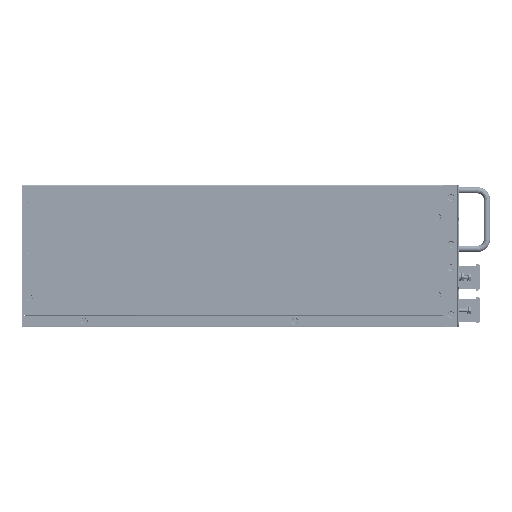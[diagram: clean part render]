
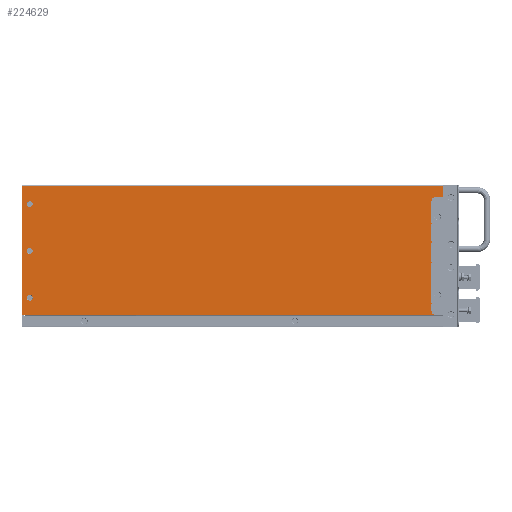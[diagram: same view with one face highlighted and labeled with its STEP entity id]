
A CAD part, left-side view. The second image highlights one B-rep face of the part: STEP entity #224629.
In plain terms, the highlighted planar face has unit normal (-1, 0, 0).
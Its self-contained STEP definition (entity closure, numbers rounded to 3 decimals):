
#2104 = VECTOR ( 'NONE', #241188, 1000. ) ;
#2286 = ORIENTED_EDGE ( 'NONE', *, *, #22132, .T. ) ;
#8684 = EDGE_CURVE ( 'NONE', #305068, #516961, #149324, .T. ) ;
#10422 = VERTEX_POINT ( 'NONE', #472895 ) ;
#22132 = EDGE_CURVE ( 'NONE', #84493, #368634, #104569, .T. ) ;
#28087 = DIRECTION ( 'NONE',  ( 1., 0., 0. ) ) ;
#30425 = AXIS2_PLACEMENT_3D ( 'NONE', #551326, #557184, #145507 ) ;
#47480 = DIRECTION ( 'NONE',  ( 0., -1., 0. ) ) ;
#47673 = FACE_BOUND ( 'NONE', #349918, .T. ) ;
#48568 = AXIS2_PLACEMENT_3D ( 'NONE', #378616, #286783, #461590 ) ;
#50557 = EDGE_CURVE ( 'NONE', #306717, #207383, #547867, .T. ) ;
#62127 = CARTESIAN_POINT ( 'NONE',  ( -220., -263., -141.5 ) ) ;
#63397 = LINE ( 'NONE', #558090, #2104 ) ;
#63403 = DIRECTION ( 'NONE',  ( 0., 0., -1. ) ) ;
#69692 = VERTEX_POINT ( 'NONE', #124878 ) ;
#74426 = DIRECTION ( 'NONE',  ( 0., 0., 1. ) ) ;
#74644 = CARTESIAN_POINT ( 'NONE',  ( -220., -263., -41.5 ) ) ;
#76308 = EDGE_LOOP ( 'NONE', ( #106493, #2286 ) ) ;
#76343 = VERTEX_POINT ( 'NONE', #373466 ) ;
#83155 = EDGE_CURVE ( 'NONE', #69692, #129796, #547067, .T. ) ;
#84493 = VERTEX_POINT ( 'NONE', #353924 ) ;
#87887 = ORIENTED_EDGE ( 'NONE', *, *, #50557, .T. ) ;
#93517 = VECTOR ( 'NONE', #310469, 1000. ) ;
#99511 = EDGE_LOOP ( 'NONE', ( #581061, #273599 ) ) ;
#103751 = FACE_BOUND ( 'NONE', #570260, .T. ) ;
#104569 = CIRCLE ( 'NONE', #511416, 2.7 ) ;
#106493 = ORIENTED_EDGE ( 'NONE', *, *, #307907, .T. ) ;
#109508 = EDGE_CURVE ( 'NONE', #286849, #305068, #317073, .T. ) ;
#115000 = CARTESIAN_POINT ( 'NONE',  ( -220., 260., -21.25 ) ) ;
#120235 = EDGE_CURVE ( 'NONE', #10422, #370964, #323507, .T. ) ;
#124878 = CARTESIAN_POINT ( 'NONE',  ( -220., 260., -81.25 ) ) ;
#129796 = VERTEX_POINT ( 'NONE', #524708 ) ;
#130580 = AXIS2_PLACEMENT_3D ( 'NONE', #74644, #249572, #205120 ) ;
#133563 = CIRCLE ( 'NONE', #48568, 2.7 ) ;
#136374 = ORIENTED_EDGE ( 'NONE', *, *, #8684, .F. ) ;
#136568 = PLANE ( 'NONE',  #415593 ) ;
#140153 = CARTESIAN_POINT ( 'NONE',  ( -220., 270., -167.032 ) ) ;
#145507 = DIRECTION ( 'NONE',  ( 0., 0., 1. ) ) ;
#149054 = ORIENTED_EDGE ( 'NONE', *, *, #499480, .T. ) ;
#149324 = LINE ( 'NONE', #507808, #347849 ) ;
#158557 = DIRECTION ( 'NONE',  ( 1., 0., 0. ) ) ;
#168666 = VERTEX_POINT ( 'NONE', #140153 ) ;
#172805 = DIRECTION ( 'NONE',  ( 1., 0., 0. ) ) ;
#173813 = CIRCLE ( 'NONE', #514315, 3.75 ) ;
#187951 = CARTESIAN_POINT ( 'NONE',  ( -220., 260., -28.75 ) ) ;
#201699 = EDGE_LOOP ( 'NONE', ( #87887, #545384 ) ) ;
#205120 = DIRECTION ( 'NONE',  ( 0., 0., -1. ) ) ;
#207383 = VERTEX_POINT ( 'NONE', #187951 ) ;
#207506 = EDGE_CURVE ( 'NONE', #168666, #516961, #63397, .T. ) ;
#208799 = CARTESIAN_POINT ( 'NONE',  ( -220., 260., -85. ) ) ;
#214761 = CARTESIAN_POINT ( 'NONE',  ( -220., -263., -44.2 ) ) ;
#217316 = CARTESIAN_POINT ( 'NONE',  ( -220., 260., -145. ) ) ;
#224629 = ADVANCED_FACE ( 'NONE', ( #281574, #406166, #497948, #47673, #103751, #361728 ), #136568, .T. ) ;
#229748 = CARTESIAN_POINT ( 'NONE',  ( -220., 270., -1.7 ) ) ;
#237870 = AXIS2_PLACEMENT_3D ( 'NONE', #217316, #172805, #353560 ) ;
#238296 = CIRCLE ( 'NONE', #237870, 3.75 ) ;
#241188 = DIRECTION ( 'NONE',  ( 0., -1., 0. ) ) ;
#241377 = VERTEX_POINT ( 'NONE', #214761 ) ;
#246929 = CARTESIAN_POINT ( 'NONE',  ( -220., -270., -167.032 ) ) ;
#248275 = AXIS2_PLACEMENT_3D ( 'NONE', #310361, #351914, #263026 ) ;
#249572 = DIRECTION ( 'NONE',  ( 1., 0., 0. ) ) ;
#253259 = DIRECTION ( 'NONE',  ( 0., 0., 1. ) ) ;
#263026 = DIRECTION ( 'NONE',  ( 0., 0., -1. ) ) ;
#273599 = ORIENTED_EDGE ( 'NONE', *, *, #281280, .T. ) ;
#281280 = EDGE_CURVE ( 'NONE', #129796, #69692, #316715, .T. ) ;
#281574 = FACE_OUTER_BOUND ( 'NONE', #306927, .T. ) ;
#286783 = DIRECTION ( 'NONE',  ( 1., 0., 0. ) ) ;
#286849 = VERTEX_POINT ( 'NONE', #229748 ) ;
#290868 = DIRECTION ( 'NONE',  ( 1., 0., 0. ) ) ;
#295220 = CIRCLE ( 'NONE', #248275, 2.7 ) ;
#305068 = VERTEX_POINT ( 'NONE', #565643 ) ;
#306717 = VERTEX_POINT ( 'NONE', #115000 ) ;
#306927 = EDGE_LOOP ( 'NONE', ( #408690, #581224, #408036, #136374 ) ) ;
#307907 = EDGE_CURVE ( 'NONE', #368634, #84493, #295220, .T. ) ;
#309404 = DIRECTION ( 'NONE',  ( 0., 0., 1. ) ) ;
#310361 = CARTESIAN_POINT ( 'NONE',  ( -220., -263., -141.5 ) ) ;
#310469 = DIRECTION ( 'NONE',  ( 0., 0., 1. ) ) ;
#316715 = CIRCLE ( 'NONE', #411030, 3.75 ) ;
#317073 = LINE ( 'NONE', #497756, #345705 ) ;
#323507 = CIRCLE ( 'NONE', #30425, 3.75 ) ;
#326024 = DIRECTION ( 'NONE',  ( 0., 0., 1. ) ) ;
#345705 = VECTOR ( 'NONE', #47480, 1000. ) ;
#347849 = VECTOR ( 'NONE', #63403, 1000. ) ;
#347987 = CIRCLE ( 'NONE', #130580, 2.7 ) ;
#349918 = EDGE_LOOP ( 'NONE', ( #424757, #149054 ) ) ;
#351914 = DIRECTION ( 'NONE',  ( 1., 0., 0. ) ) ;
#353560 = DIRECTION ( 'NONE',  ( 0., 0., 1. ) ) ;
#353924 = CARTESIAN_POINT ( 'NONE',  ( -220., -263., -138.8 ) ) ;
#356877 = CARTESIAN_POINT ( 'NONE',  ( -220., 260., -148.75 ) ) ;
#361728 = FACE_BOUND ( 'NONE', #76308, .T. ) ;
#368634 = VERTEX_POINT ( 'NONE', #560737 ) ;
#370964 = VERTEX_POINT ( 'NONE', #356877 ) ;
#373466 = CARTESIAN_POINT ( 'NONE',  ( -220., -263., -38.8 ) ) ;
#378616 = CARTESIAN_POINT ( 'NONE',  ( -220., -263., -41.5 ) ) ;
#379088 = DIRECTION ( 'NONE',  ( 0., 0., -1. ) ) ;
#396499 = AXIS2_PLACEMENT_3D ( 'NONE', #425279, #158557, #309404 ) ;
#406166 = FACE_BOUND ( 'NONE', #201699, .T. ) ;
#408036 = ORIENTED_EDGE ( 'NONE', *, *, #207506, .T. ) ;
#408690 = ORIENTED_EDGE ( 'NONE', *, *, #109508, .F. ) ;
#411030 = AXIS2_PLACEMENT_3D ( 'NONE', #208799, #28087, #253259 ) ;
#411986 = DIRECTION ( 'NONE',  ( -1., 0., 0. ) ) ;
#415593 = AXIS2_PLACEMENT_3D ( 'NONE', #462237, #411986, #326024 ) ;
#424757 = ORIENTED_EDGE ( 'NONE', *, *, #120235, .T. ) ;
#425279 = CARTESIAN_POINT ( 'NONE',  ( -220., 260., -25. ) ) ;
#426420 = DIRECTION ( 'NONE',  ( 1., 0., 0. ) ) ;
#437398 = EDGE_CURVE ( 'NONE', #241377, #76343, #133563, .T. ) ;
#458661 = CARTESIAN_POINT ( 'NONE',  ( -220., 260., -85. ) ) ;
#461590 = DIRECTION ( 'NONE',  ( 0., 0., -1. ) ) ;
#462237 = CARTESIAN_POINT ( 'NONE',  ( -220., 0., 0. ) ) ;
#472895 = CARTESIAN_POINT ( 'NONE',  ( -220., 260., -141.25 ) ) ;
#487071 = DIRECTION ( 'NONE',  ( 0., 0., 1. ) ) ;
#495733 = ORIENTED_EDGE ( 'NONE', *, *, #437398, .T. ) ;
#497756 = CARTESIAN_POINT ( 'NONE',  ( -220., 270., -1.7 ) ) ;
#497948 = FACE_BOUND ( 'NONE', #99511, .T. ) ;
#499480 = EDGE_CURVE ( 'NONE', #370964, #10422, #238296, .T. ) ;
#499923 = CARTESIAN_POINT ( 'NONE',  ( -220., 270., -1.5 ) ) ;
#501635 = ORIENTED_EDGE ( 'NONE', *, *, #558606, .T. ) ;
#507808 = CARTESIAN_POINT ( 'NONE',  ( -220., -270., -181.7 ) ) ;
#508376 = EDGE_CURVE ( 'NONE', #168666, #286849, #585831, .T. ) ;
#511416 = AXIS2_PLACEMENT_3D ( 'NONE', #62127, #426420, #379088 ) ;
#514315 = AXIS2_PLACEMENT_3D ( 'NONE', #566216, #290868, #74426 ) ;
#516961 = VERTEX_POINT ( 'NONE', #246929 ) ;
#524708 = CARTESIAN_POINT ( 'NONE',  ( -220., 260., -88.75 ) ) ;
#528423 = AXIS2_PLACEMENT_3D ( 'NONE', #458661, #578812, #487071 ) ;
#545384 = ORIENTED_EDGE ( 'NONE', *, *, #551863, .T. ) ;
#547067 = CIRCLE ( 'NONE', #528423, 3.75 ) ;
#547867 = CIRCLE ( 'NONE', #396499, 3.75 ) ;
#551326 = CARTESIAN_POINT ( 'NONE',  ( -220., 260., -145. ) ) ;
#551863 = EDGE_CURVE ( 'NONE', #207383, #306717, #173813, .T. ) ;
#557184 = DIRECTION ( 'NONE',  ( 1., 0., 0. ) ) ;
#558090 = CARTESIAN_POINT ( 'NONE',  ( -220., 0., -167.032 ) ) ;
#558606 = EDGE_CURVE ( 'NONE', #76343, #241377, #347987, .T. ) ;
#560737 = CARTESIAN_POINT ( 'NONE',  ( -220., -263., -144.2 ) ) ;
#565643 = CARTESIAN_POINT ( 'NONE',  ( -220., -270., -1.7 ) ) ;
#566216 = CARTESIAN_POINT ( 'NONE',  ( -220., 260., -25. ) ) ;
#570260 = EDGE_LOOP ( 'NONE', ( #495733, #501635 ) ) ;
#578812 = DIRECTION ( 'NONE',  ( 1., 0., 0. ) ) ;
#581061 = ORIENTED_EDGE ( 'NONE', *, *, #83155, .T. ) ;
#581224 = ORIENTED_EDGE ( 'NONE', *, *, #508376, .F. ) ;
#585831 = LINE ( 'NONE', #499923, #93517 ) ;
